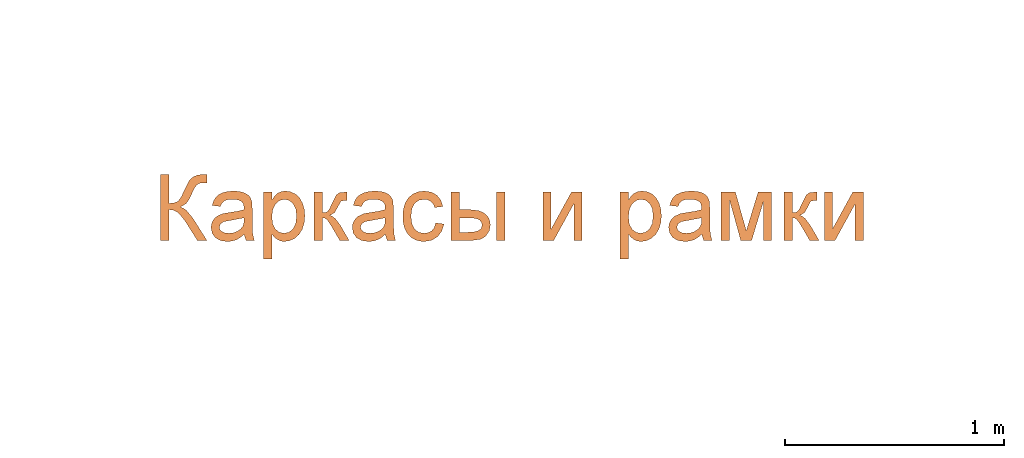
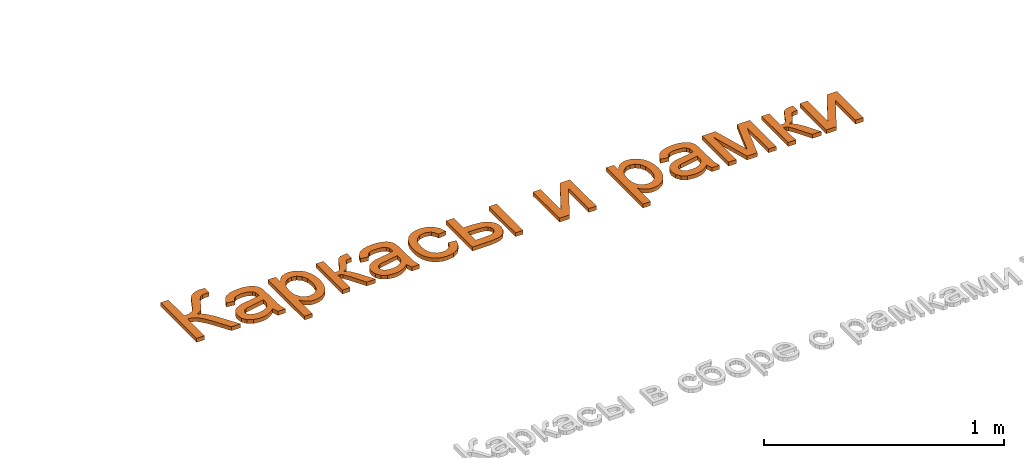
# One storey, part 32 of 87: 1 proxy.
"""IFC2X3 building model written with IfcOpenShell, lengths in millimetres."""

from ifc_helpers import new_model, entity, si_unit, converted_unit, derived_unit, direction, frame, frame_2d, origin, place, context, subcontext, project, spatial, polyline, rectangle, outline, extrude, element, save


model = new_model("IFC2X3")

# Units and contexts
model_context = context("Model", 3, precision=0.01, world=origin(), true_north=direction((6.12303176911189e-17, 1.0)))
body_context = subcontext(model_context, "Body", "Model", "MODEL_VIEW")
ifc_project = project(units=[si_unit("LENGTHUNIT", "METRE", prefix="MILLI"), si_unit("AREAUNIT", "SQUARE_METRE"), si_unit("VOLUMEUNIT", "CUBIC_METRE"), converted_unit("PLANEANGLEUNIT", "DEGREE", entity("IfcRatioMeasure", 0.0174532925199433), si_unit("PLANEANGLEUNIT", "RADIAN"), dimensions=[0, 0, 0, 0, 0, 0, 0]), si_unit("MASSUNIT", "GRAM", prefix="KILO"), derived_unit("MASSDENSITYUNIT", [(si_unit("MASSUNIT", "GRAM", prefix="KILO"), 1), (si_unit("LENGTHUNIT", "METRE"), -3)]), si_unit("TIMEUNIT", "SECOND"), si_unit("FREQUENCYUNIT", "HERTZ"), si_unit("THERMODYNAMICTEMPERATUREUNIT", "DEGREE_CELSIUS"), derived_unit("THERMALTRANSMITTANCEUNIT", [(si_unit("MASSUNIT", "GRAM", prefix="KILO"), 1), (si_unit("THERMODYNAMICTEMPERATUREUNIT", "KELVIN"), -1), (si_unit("TIMEUNIT", "SECOND"), -3)]), derived_unit("VOLUMETRICFLOWRATEUNIT", [(si_unit("LENGTHUNIT", "METRE"), 3), (si_unit("TIMEUNIT", "SECOND"), -1)]), si_unit("ELECTRICCURRENTUNIT", "AMPERE"), si_unit("ELECTRICVOLTAGEUNIT", "VOLT"), si_unit("POWERUNIT", "WATT"), si_unit("FORCEUNIT", "NEWTON", prefix="KILO"), si_unit("ILLUMINANCEUNIT", "LUX"), si_unit("LUMINOUSFLUXUNIT", "LUMEN"), si_unit("LUMINOUSINTENSITYUNIT", "CANDELA"), derived_unit("USERDEFINED", [(si_unit("MASSUNIT", "GRAM", prefix="KILO"), -1), (si_unit("LENGTHUNIT", "METRE"), -2), (si_unit("TIMEUNIT", "SECOND"), 3), (si_unit("LUMINOUSFLUXUNIT", "LUMEN"), 1)]), derived_unit("LINEARVELOCITYUNIT", [(si_unit("LENGTHUNIT", "METRE"), 1), (si_unit("TIMEUNIT", "SECOND"), -1)]), si_unit("PRESSUREUNIT", "PASCAL"), derived_unit("USERDEFINED", [(si_unit("LENGTHUNIT", "METRE"), -2), (si_unit("MASSUNIT", "GRAM", prefix="KILO"), 1), (si_unit("TIMEUNIT", "SECOND"), -2)])], contexts=[model_context])

# Site, building, storey
site_placement = place(None, origin())
site = spatial("IfcSite", under=ifc_project, at=site_placement, Name="Default", CompositionType="ELEMENT")
building_placement = place(site_placement, origin())
building = spatial("IfcBuilding", under=site, at=building_placement, Name="Наименование здания", CompositionType="ELEMENT")
storey_placement = place(building_placement, origin())
storey = spatial("IfcBuildingStorey", under=building, at=storey_placement, Name="Этаж 01", CompositionType="ELEMENT", Elevation=0.0)

# Proxy
proxy_placement = place(storey_placement, origin())
element("IfcBuildingElementProxy", 1, at=proxy_placement, inside=storey, Name="Текст модели:300 мм Arial", ObjectType="Текст модели:300 мм Arial", context=body_context, shape_type="SweptSolid", body=[
    extrude(outline(polyline([(-113.949345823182, -119.344729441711), (187.419584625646, -119.344729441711), (187.419584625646, -81.6736131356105), (46.1528984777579, -81.6736131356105), (49.1603337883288, -59.8306196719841), (58.1826397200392, -42.4206042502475), (75.2799554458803, -25.3968649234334), (102.512420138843, -4.71269974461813), (187.419584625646, 48.8509187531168), (187.419584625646, 92.5552997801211), (86.9142235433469, 29.2060202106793), (51.4136110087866, 0.529618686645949), (40.5886833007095, -13.9603333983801), (34.3806746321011, -28.551453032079), (18.7824780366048, -2.54219597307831), (2.08063545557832, 9.55192461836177), (-52.9729051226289, 36.011837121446), (-67.2283324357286, 46.4964739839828), (-74.0157552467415, 58.6733680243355), (-76.2782295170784, 75.9270335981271), (-75.8367711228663, 92.5552997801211), (-113.50788742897, 92.5552997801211), (-113.949345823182, 67.8336297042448), (-111.834024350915, 50.2212791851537), (-105.488059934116, 34.1724271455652), (-96.0426897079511, 20.652763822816), (-84.6291508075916, 10.6279794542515), (-9.66399724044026, -26.1142348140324), (7.92995917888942, -39.5511246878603), (15.4071607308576, -56.1701938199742), (17.8995612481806, -81.6736131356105), (-113.949345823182, -81.6736131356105), (-113.949345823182, -119.344729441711)])), frame((71011.9352014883, 5397.10994862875, 0.0), z_axis=(0.0, 0.0, 1.0), x_axis=(0.0, -1.0, 0.0)), (0.0, 0.0, 1.0), 20.0),
    extrude(outline(polyline([(109.632642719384, 21.6400019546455), (139.414275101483, 21.6400019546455), (151.326928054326, 57.3779608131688), (118.904502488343, 60.2746899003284), (56.2118396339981, 79.1557794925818), (11.7487931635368, 93.9767949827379), (-20.1035933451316, 102.65534879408), (-34.9333339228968, 102.809492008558), (-48.0122402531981, 99.7818866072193), (-60.1401120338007, 92.6854820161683), (-72.1167489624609, 80.6332276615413), (-83.2645025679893, 63.0696262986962), (-92.9057243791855, 39.4391806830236), (-99.5047989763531, 13.6507300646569), (-101.433043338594, -10.1076835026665), (-98.7108160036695, -30.9664596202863), (-91.358475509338, -48.0559978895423), (-79.0880939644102, -62.4320339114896), (-61.611743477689, -75.1503032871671), (-45.2318456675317, -40.9014260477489), (-57.7232627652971, -28.8462633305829), (-63.8802662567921, -15.5288712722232), (-64.0809432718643, 1.05752027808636), (-58.7033809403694, 22.9196814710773), (-48.4543113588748, 45.0581371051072), (-35.2038116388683, 58.9833769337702), (-22.3081321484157, 62.8863994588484), (-5.5385137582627, 60.0303874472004), (2.34896544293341, 57.1685587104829), (0.499246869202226, 29.5158477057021), (-6.02711866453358, -8.90943813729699), (-10.9597015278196, -41.6226999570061), (-7.5743675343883, -70.5550904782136), (-1.92341912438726, -83.6165466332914), (6.95581170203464, -95.3692396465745), (18.6997796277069, -104.984286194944), (32.9449393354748, -111.632802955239), (58.4832707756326, -115.114112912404), (82.3289352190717, -107.968266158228), (102.393728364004, -90.1778125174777), (116.589445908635, -61.7253018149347), (121.426052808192, -41.3405887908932), (122.301469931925, -21.0896604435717), (118.5816742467, -0.315226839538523), (109.632642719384, 21.6400019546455)]), holes=[polyline([(38.156725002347, 45.4653078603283), (48.208025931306, 41.8822052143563), (63.7910324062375, 35.1173539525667), (73.9644845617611, 27.0146559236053), (82.0235571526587, 13.7030805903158), (86.8892476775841, -3.19741411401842), (87.6483302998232, -22.296630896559), (83.3875791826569, -42.2043724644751), (75.415757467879, -59.6632727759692), (65.2277634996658, -70.8575601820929), (53.8589743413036, -75.9384695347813), (42.3447670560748, -75.0572356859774), (30.2227120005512, -65.5876072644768), (25.4413639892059, -48.5213358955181), (29.8969753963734, -15.842974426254), (38.156725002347, 45.4653078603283)])]), frame((71218.812130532, 5335.10718882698, 0.0), z_axis=(0.0, 0.0, 1.0), x_axis=(0.316227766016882, -0.948683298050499, 0.0)), (0.0, 0.0, 1.0), 20.0),
    extrude(outline(polyline([(-99.8542099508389, -188.324679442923), (-62.1830936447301, -188.324679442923), (-62.1830936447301, -74.1341081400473), (-51.5421069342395, -87.6445744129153), (-38.3075521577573, -98.5982608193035), (-22.8473113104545, -105.854733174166), (-5.5292663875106, -108.273557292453), (18.8889010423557, -104.659116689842), (42.1114519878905, -93.8157948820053), (62.0506561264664, -76.1942473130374), (76.6187831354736, -52.2451294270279), (85.5307244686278, -23.4307721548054), (88.5013715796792, 8.78649357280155), (85.871015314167, 39.0815758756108), (77.9799465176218, 66.8382724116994), (64.9201356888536, 90.3459319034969), (46.7835533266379, 107.893903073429), (24.5082985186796, 118.81999833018), (-0.967529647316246, 122.462030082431), (-20.0973933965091, 119.859264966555), (-36.1370483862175, 112.050969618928), (-49.8958350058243, 99.0371440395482), (-62.1830936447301, 80.8177882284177), (-62.1830936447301, 117.753140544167), (-99.8542099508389, 117.753140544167), (-99.8542099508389, -188.324679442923)]), holes=[polyline([(-62.1830936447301, 5.32840281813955), (-57.8328890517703, 39.4954431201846), (-44.7822752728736, 64.4470394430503), (-26.0846728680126, 79.7049451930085), (-4.79350239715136, 84.7909137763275), (16.4148946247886, 80.0084478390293), (34.422718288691, 65.6610500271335), (46.728371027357, 41.7119321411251), (50.830255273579, 8.12430598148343), (46.6272034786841, -26.9164540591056), (34.0180480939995, -51.399000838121), (15.5227807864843, -65.8015809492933), (-6.33860677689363, -70.6024409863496), (-27.8505064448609, -65.9671278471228), (-45.8859212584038, -52.0611884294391), (-58.1088005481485, -28.4431643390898), (-62.1830936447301, 5.32840281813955)])]), frame((71463.3336358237, 5313.2550317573, 0.0)), (0.0, 0.0, 1.0), 20.0),
    extrude(outline(polyline([(-92.1976330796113, -85.1594264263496), (129.120175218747, -85.1594264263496), (129.120175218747, -47.4883101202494), (25.5246053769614, -47.4883101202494), (27.2628478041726, -36.5438207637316), (32.4775750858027, -27.2548003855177), (61.2091589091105, -7.38917264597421), (129.120175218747, 32.1213536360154), (129.120175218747, 74.9428178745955), (59.7376309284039, 34.6229512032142), (28.8539374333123, 11.2992327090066), (19.4959391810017, -0.528173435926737), (14.1938399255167, -12.4659441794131), (1.0604526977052, 8.83442334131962), (-25.7581447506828, 24.0279497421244), (-50.5533912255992, 36.9773959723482), (-54.5265167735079, 55.3714957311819), (-54.3057875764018, 65.5250387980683), (-92.1976330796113, 65.5250387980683), (-92.1976330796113, 58.3145516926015), (-89.3281535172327, 30.7601902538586), (-78.2549054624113, 15.6034520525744), (-44.2258209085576, -1.57663712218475), (-18.0326228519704, -13.4776196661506), (-4.78887102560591, -22.2516052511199), (0.287900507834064, -32.1660250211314), (1.98015768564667, -47.4883101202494), (-92.1976330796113, -47.4883101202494), (-92.1976330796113, -85.1594264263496)])), frame((71679.3744396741, 5338.81053922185, 0.0), z_axis=(0.0, 0.0, 1.0), x_axis=(0.0, -1.0, 0.0)), (0.0, 0.0, 1.0), 20.0),
    extrude(outline(polyline([(109.632642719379, 21.6400019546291), (139.414275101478, 21.6400019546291), (151.326928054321, 57.3779608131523), (118.904502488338, 60.2746899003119), (56.2118396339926, 79.1557794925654), (11.7487931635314, 93.9767949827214), (-20.1035933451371, 102.655348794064), (-34.9333339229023, 102.809492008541), (-48.0122402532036, 99.7818866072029), (-60.1401120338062, 92.6854820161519), (-72.1167489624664, 80.6332276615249), (-83.264502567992, 63.069626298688), (-92.905724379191, 39.4391806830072), (-99.5047989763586, 13.6507300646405), (-101.4330433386, -10.1076835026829), (-98.710816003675, -30.9664596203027), (-91.3584755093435, -48.0559978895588), (-79.0880939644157, -62.432033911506), (-61.6117434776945, -75.1503032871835), (-45.2318456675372, -40.9014260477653), (-57.7232627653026, -28.8462633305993), (-63.8802662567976, -15.5288712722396), (-64.0809432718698, 1.05752027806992), (-58.7033809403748, 22.9196814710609), (-48.4543113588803, 45.0581371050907), (-35.2038116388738, 58.9833769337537), (-22.3081321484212, 62.886399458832), (-5.53851375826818, 60.030387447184), (2.34896544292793, 57.1685587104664), (0.499246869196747, 29.5158477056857), (-6.02711866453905, -8.90943813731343), (-10.9597015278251, -41.6226999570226), (-7.57436753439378, -70.55509047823), (-1.92341912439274, -83.6165466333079), (6.95581170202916, -95.3692396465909), (18.6997796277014, -104.98428619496), (32.9449393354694, -111.632802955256), (58.4832707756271, -115.114112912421), (82.3289352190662, -107.968266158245), (102.393728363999, -90.1778125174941), (116.589445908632, -61.7253018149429), (121.426052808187, -41.3405887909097), (122.30146993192, -21.0896604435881), (118.581674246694, -0.315226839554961), (109.632642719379, 21.6400019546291)]), holes=[polyline([(38.1567250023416, 45.4653078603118), (48.2080259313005, 41.8822052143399), (63.791032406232, 35.1173539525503), (73.9644845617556, 27.0146559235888), (82.0235571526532, 13.7030805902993), (86.8892476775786, -3.19741411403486), (87.6483302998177, -22.2966308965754), (83.3875791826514, -42.2043724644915), (75.4157574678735, -59.6632727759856), (65.2277634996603, -70.8575601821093), (53.8589743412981, -75.9384695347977), (42.3447670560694, -75.0572356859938), (30.2227120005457, -65.5876072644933), (25.4413639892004, -48.5213358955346), (29.8969753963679, -15.8429744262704), (38.1567250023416, 45.4653078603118)])]), frame((71863.9299972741, 5335.10718882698, 0.0), z_axis=(0.0, 0.0, 1.0), x_axis=(0.316227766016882, -0.948683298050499, 0.0)), (0.0, 0.0, 1.0), 20.0),
    extrude(outline(polyline([(7.893451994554, -67.9185040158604), (1.30746610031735, -105.307157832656), (36.4195331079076, -105.129492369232), (66.4261662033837, -93.7180090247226), (89.6203783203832, -72.4909647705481), (104.295182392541, -42.8666165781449), (108.74404148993, -22.1296295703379), (109.012197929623, -2.39079348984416), (105.099651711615, 16.3498916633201), (97.0064028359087, 34.0924258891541), (84.7908025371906, 50.1981439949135), (68.5112020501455, 64.0283807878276), (48.1676013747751, 75.583136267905), (23.7600005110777, 84.8624104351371), (-9.12585237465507, 91.9768700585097), (-39.4342298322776, 92.2735186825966), (-66.1333804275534, 85.2903014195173), (-88.1915527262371, 70.5651633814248), (-105.030198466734, 50.0081893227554), (-116.070769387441, 25.5294639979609), (-121.043524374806, -6.24521208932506), (-115.348119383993, -34.6264209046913), (-99.4495521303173, -58.6241333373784), (-73.812820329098, -77.2483202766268), (-58.226119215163, -42.631252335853), (-71.922398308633, -31.2637177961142), (-80.0505148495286, -17.6267753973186), (-82.7485339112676, -2.29379634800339), (-80.1545205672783, 14.1618481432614), (-68.5424602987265, 36.0587922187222), (-49.5129801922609, 50.4174204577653), (-22.8433391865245, 55.3984734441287), (11.689203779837, 49.1626917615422), (44.2232338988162, 34.8429282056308), (63.6316107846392, 15.9617898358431), (71.3115889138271, -6.25578690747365), (68.6604227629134, -30.5848655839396), (60.1596823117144, -48.378067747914), (47.1729034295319, -61.1138195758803), (29.7381415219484, -67.9185040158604), (7.893451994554, -67.9185040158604)])), frame((72087.2762149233, 5317.27331482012, 0.0), z_axis=(0.0, 0.0, -1.0), x_axis=(-0.294292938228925, -0.955715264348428, 0.0)), (0.0, 0.0, -1.0), 20.0),
    extrude(outline(polyline([(-129.32161186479, -116.217168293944), (91.9961964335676, -116.217168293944), (91.9961964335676, -23.8787875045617), (86.8366514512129, 15.2730538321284), (80.3872202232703, 30.2205591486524), (71.3580165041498, 42.0824542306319), (48.6137121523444, 57.5610891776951), (21.6571589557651, 62.7206341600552), (5.96009407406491, 61.1824275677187), (-7.94814460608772, 56.5678077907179), (-20.0675570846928, 48.8767748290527), (-30.3981433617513, 38.1093286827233), (-38.6547948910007, 24.4999941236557), (-44.5524031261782, 8.28329592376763), (-49.2704897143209, -31.9721913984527), (-49.2704897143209, -78.5460519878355), (-129.32161186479, -78.5460519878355), (-129.32161186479, -116.217168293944)]), holes=[polyline([(54.3250801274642, -78.5460519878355), (-11.5993734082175, -78.5460519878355), (-11.5993734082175, -34.9152473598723), (-9.06098764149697, -3.78323351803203), (-1.44583034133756, 13.9762697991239), (9.42508261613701, 22.2812058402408), (21.7307353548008, 25.0495178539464), (36.2896653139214, 21.315515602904), (46.4156172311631, 10.1135088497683), (52.3477144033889, -9.84408938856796), (54.3250801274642, -39.8448660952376), (54.3250801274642, -78.5460519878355)])]), frame((72336.7144901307, 5301.68656043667, 0.0), z_axis=(0.0, 0.0, 1.0), x_axis=(0.0, -1.0, 0.0)), (0.0, 0.0, 1.0), 20.0),
    extrude(outline(polyline([(-110.76191110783, -89.5277623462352), (110.555897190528, -89.5277623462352), (110.555897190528, -40.2315749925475), (-57.1982926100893, 51.7389238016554), (110.555897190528, 51.7389238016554), (110.555897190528, 89.4100401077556), (-110.76191110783, 89.4100401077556), (-110.76191110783, 40.7024639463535), (58.0223482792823, -51.8566460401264), (-110.76191110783, -51.8566460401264), (-110.76191110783, -89.5277623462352)])), frame((72729.1162530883, 5320.24626119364, 0.0), z_axis=(0.0, 0.0, 1.0), x_axis=(0.0, -1.0, 0.0)), (0.0, 0.0, 1.0), 20.0),
    extrude(outline(polyline([(-99.8542099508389, -188.324679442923), (-62.1830936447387, -188.324679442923), (-62.1830936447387, -74.1341081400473), (-51.5421069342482, -87.6445744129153), (-38.3075521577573, -98.5982608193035), (-22.8473113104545, -105.854733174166), (-5.5292663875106, -108.273557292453), (18.8889010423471, -104.659116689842), (42.1114519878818, -93.8157948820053), (62.0506561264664, -76.1942473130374), (76.618783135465, -52.2451294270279), (85.5307244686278, -23.4307721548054), (88.5013715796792, 8.78649357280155), (85.871015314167, 39.0815758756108), (77.9799465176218, 66.8382724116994), (64.9201356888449, 90.3459319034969), (46.7835533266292, 107.893903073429), (24.5082985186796, 118.81999833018), (-0.967529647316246, 122.462030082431), (-20.0973933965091, 119.859264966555), (-36.1370483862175, 112.050969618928), (-49.895835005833, 99.0371440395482), (-62.1830936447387, 80.8177882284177), (-62.1830936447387, 117.753140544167), (-99.8542099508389, 117.753140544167), (-99.8542099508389, -188.324679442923)]), holes=[polyline([(-62.1830936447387, 5.32840281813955), (-57.8328890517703, 39.4954431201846), (-44.7822752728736, 64.4470394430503), (-26.0846728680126, 79.7049451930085), (-4.79350239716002, 84.7909137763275), (16.4148946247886, 80.0084478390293), (34.422718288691, 65.6610500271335), (46.728371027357, 41.7119321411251), (50.830255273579, 8.12430598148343), (46.6272034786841, -26.9164540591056), (34.0180480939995, -51.399000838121), (15.5227807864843, -65.8015809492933), (-6.33860677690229, -70.6024409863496), (-27.8505064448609, -65.9671278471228), (-45.8859212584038, -52.0611884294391), (-58.1088005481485, -28.4431643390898), (-62.1830936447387, 5.32840281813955)])]), frame((73092.6094160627, 5313.2550317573, 0.0)), (0.0, 0.0, 1.0), 20.0),
    extrude(outline(polyline([(109.632642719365, 21.640001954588), (139.414275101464, 21.640001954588), (151.326928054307, 57.3779608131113), (118.904502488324, 60.2746899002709), (56.2118396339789, 79.1557794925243), (11.7487931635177, 93.9767949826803), (-20.1035933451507, 102.655348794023), (-34.9333339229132, 102.809492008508), (-48.0122402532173, 99.7818866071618), (-60.1401120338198, 92.6854820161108), (-72.1167489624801, 80.6332276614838), (-83.2645025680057, 63.0696262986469), (-92.9057243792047, 39.4391806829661), (-99.5047989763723, 13.6507300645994), (-101.433043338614, -10.107683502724), (-98.7108160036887, -30.9664596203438), (-91.3584755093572, -48.0559978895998), (-79.0880939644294, -62.4320339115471), (-61.6117434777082, -75.1503032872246), (-45.2318456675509, -40.9014260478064), (-57.7232627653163, -28.8462633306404), (-63.8802662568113, -15.5288712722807), (-64.0809432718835, 1.05752027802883), (-58.7033809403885, 22.9196814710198), (-48.4543113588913, 45.0581371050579), (-35.2038116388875, 58.9833769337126), (-22.3081321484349, 62.8863994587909), (-5.53851375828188, 60.0303874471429), (2.34896544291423, 57.1685587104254), (0.49924686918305, 29.5158477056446), (-6.02711866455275, -8.90943813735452), (-10.9597015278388, -41.6226999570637), (-7.57436753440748, -70.5550904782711), (-1.92341912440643, -83.616546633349), (6.95581170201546, -95.369239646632), (18.6997796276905, -104.984286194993), (32.9449393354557, -111.632802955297), (58.4832707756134, -115.114112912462), (82.3289352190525, -107.968266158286), (102.393728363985, -90.1778125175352), (116.589445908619, -61.725301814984), (121.426052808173, -41.3405887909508), (122.301469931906, -21.0896604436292), (118.58167424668, -0.315226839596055), (109.632642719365, 21.640001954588)]), holes=[polyline([(38.1567250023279, 45.4653078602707), (48.2080259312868, 41.8822052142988), (63.7910324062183, 35.1173539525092), (73.9644845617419, 27.0146559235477), (82.0235571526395, 13.7030805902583), (86.8892476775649, -3.19741411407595), (87.648330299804, -22.2966308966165), (83.3875791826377, -42.2043724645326), (75.4157574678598, -59.6632727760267), (65.2277634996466, -70.8575601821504), (53.8589743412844, -75.9384695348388), (42.3447670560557, -75.0572356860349), (30.222712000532, -65.5876072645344), (25.4413639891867, -48.5213358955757), (29.8969753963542, -15.8429744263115), (38.1567250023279, 45.4653078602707)])]), frame((73309.5590855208, 5335.10718882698, 0.0), z_axis=(0.0, 0.0, 1.0), x_axis=(0.316227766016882, -0.948683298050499, 0.0)), (0.0, 0.0, 1.0), 20.0),
    extrude(outline(polyline([(-121.75196123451, -115.350814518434), (99.5658470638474, -115.350814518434), (99.5658470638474, -77.6796982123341), (-87.1710536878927, -77.6796982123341), (99.5658470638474, -25.8819132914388), (99.5658470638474, 23.5614268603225), (-78.6361913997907, 77.7136565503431), (99.5658470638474, 77.7136565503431), (99.5658470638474, 115.384772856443), (-121.75196123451, 115.384772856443), (-121.75196123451, 53.2862920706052), (55.4200076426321, -0.571632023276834), (-121.75196123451, -50.5300069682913), (-121.75196123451, -115.350814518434)])), frame((73569.57719538, 5309.25621106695, 0.0), z_axis=(0.0, 0.0, 1.0), x_axis=(0.0, -1.0, 0.0)), (0.0, 0.0, 1.0), 20.0),
    extrude(outline(polyline([(-92.1976330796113, -85.1594264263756), (129.120175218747, -85.1594264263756), (129.120175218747, -47.4883101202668), (25.5246053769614, -47.4883101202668), (27.2628478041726, -36.5438207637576), (32.4775750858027, -27.2548003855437), (61.2091589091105, -7.3891726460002), (129.120175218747, 32.1213536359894), (129.120175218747, 74.9428178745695), (59.7376309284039, 34.6229512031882), (28.8539374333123, 11.2992327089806), (19.4959391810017, -0.528173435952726), (14.1938399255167, -12.4659441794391), (1.0604526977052, 8.83442334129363), (-25.7581447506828, 24.0279497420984), (-50.5533912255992, 36.9773959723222), (-54.5265167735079, 55.3714957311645), (-54.3057875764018, 65.5250387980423), (-92.1976330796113, 65.5250387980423), (-92.1976330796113, 58.3145516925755), (-89.3281535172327, 30.7601902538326), (-78.2549054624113, 15.6034520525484), (-44.2258209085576, -1.57663712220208), (-18.0326228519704, -13.4776196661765), (-4.78887102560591, -22.2516052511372), (0.287900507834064, -32.1660250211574), (1.98015768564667, -47.4883101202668), (-92.1976330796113, -47.4883101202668), (-92.1976330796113, -85.1594264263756)])), frame((73826.628069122, 5338.81053922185, 0.0), z_axis=(0.0, 0.0, 1.0), x_axis=(0.0, -1.0, 0.0)), (0.0, 0.0, 1.0), 20.0),
    extrude(outline(polyline([(-110.76191110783, -89.5277623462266), (110.555897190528, -89.5277623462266), (110.555897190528, -40.2315749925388), (-57.1982926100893, 51.7389238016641), (110.555897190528, 51.7389238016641), (110.555897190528, 89.4100401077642), (-110.76191110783, 89.4100401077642), (-110.76191110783, 40.7024639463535), (58.0223482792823, -51.8566460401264), (-110.76191110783, -51.8566460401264), (-110.76191110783, -89.5277623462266)])), frame((74014.6430970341, 5320.24626119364, 0.0), z_axis=(0.0, 0.0, 1.0), x_axis=(0.0, -1.0, 0.0)), (0.0, 0.0, 1.0), 20.0),
    extrude(rectangle(XDim=221.317808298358, YDim=37.6711163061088, at=frame_2d((5.40012479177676e-13, 0.0), x_axis=(1.0, 0.0))), frame((72446.5240196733, 5320.34926815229, 0.0), z_axis=(0.0, 0.0, 1.0), x_axis=(0.0, -1.0, 0.0)), (0.0, 0.0, 1.0), 20.0),
])

save(model, "model.ifc")
